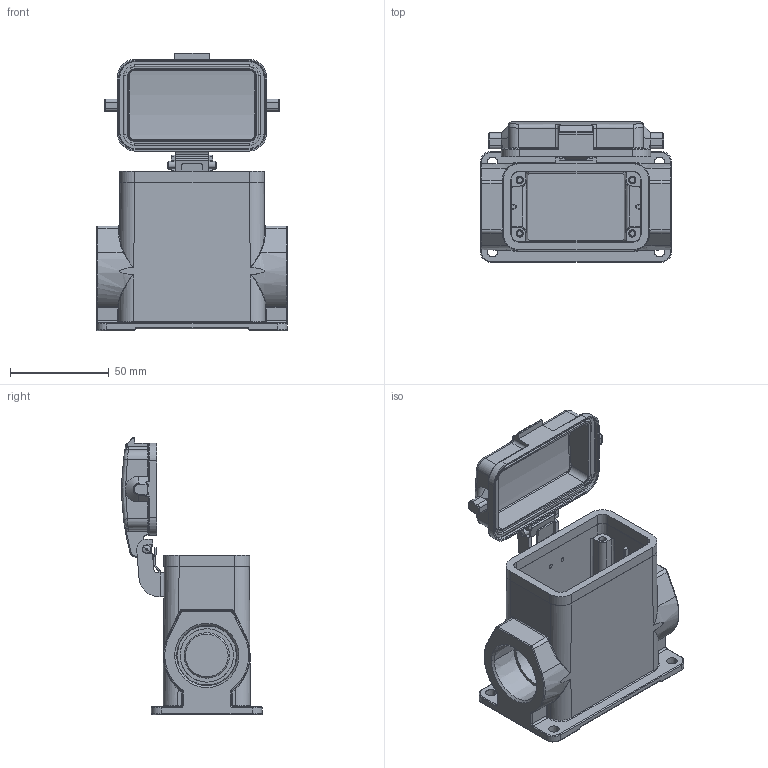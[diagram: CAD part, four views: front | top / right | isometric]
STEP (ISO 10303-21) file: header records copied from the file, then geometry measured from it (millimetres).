
FILE_DESCRIPTION (( 'STEP AP203' ), '1' );
FILE_NAME ('H10B-SDRH-BO-M32.STEP', '2020-11-21T03:29:46', ( '' ), ( '' ), 'SwSTEP 2.0', 'SolidWorks 2016', '' );
FILE_SCHEMA (( 'CONFIG_CONTROL_DESIGN' ));
Length unit declared in the file: millimetre
Products named in the file (8): spring; 10bh-surface-m-highconstruction; chaxiao; 10bmifengquan; baohugai-lianjiekou_5; baohugailuosi; H10B-SDRH-BO-M32; 0000101120
Assembly tree (8 placements, depth 2):
  H10B-SDRH-BO-M32
    10bmifengquan
    chaxiao
    baohugai-lianjiekou_5
    spring
    baohugailuosi  x2
    0000101120
    10bh-surface-m-highconstruction
Bounding box: 96.5 x 70.94 x 140.4 mm (x, y, z)
Volume: 143232.4 mm3; surface area: 69897.9 mm2
Topology: 8 solids, 8 shells, 879 faces, 2145 edges, 1300 vertices
Faces by surface type: cylinder 359, plane 234, bspline 204, cone 82
Entity records: 84023 total; most frequent: CARTESIAN_POINT 66035, ORIENTED_EDGE 3856, DIRECTION 3211, EDGE_CURVE 1928, VERTEX_POINT 1174, AXIS2_PLACEMENT_3D 1156, LINE 899, VECTOR 899
